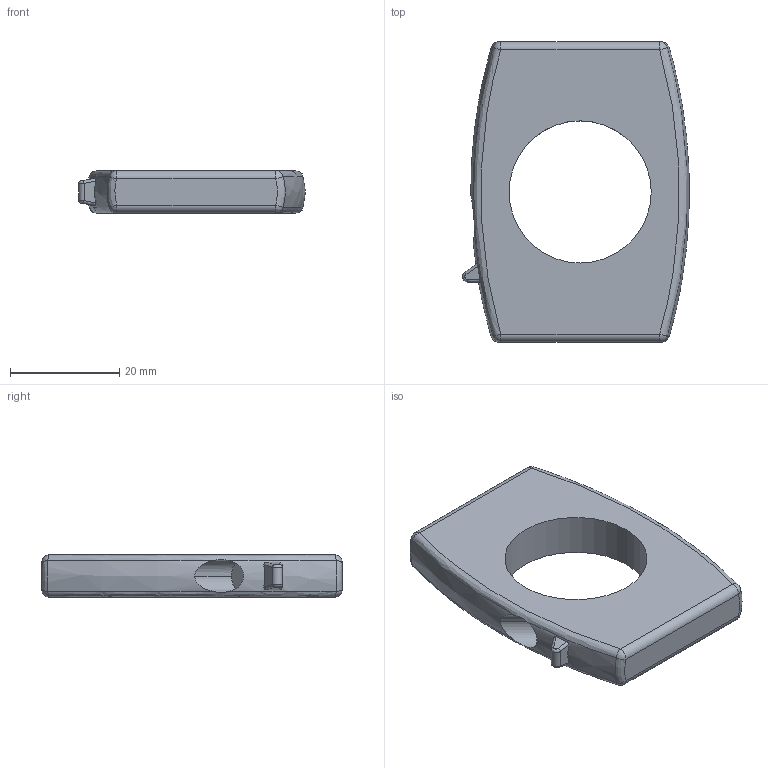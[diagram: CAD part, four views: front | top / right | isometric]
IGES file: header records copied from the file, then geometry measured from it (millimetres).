
Global section: file name: No Iges File Name specified; native system: Autodesk Inventor 2010; preprocessor: AutoDesk Inventor Iges Exporter R2010; author: valotma1; date: 20100823.143251; units: millimetre
Bounding box: 41.51 x 55 x 7.8 mm (x, y, z)
Volume: 11408.8 mm3; surface area: 4867.1 mm2
Topology: 1 solids, 1 shells, 43 faces, 100 edges, 52 vertices
Faces by surface type: bspline 19, sphere 8, plane 7, cylinder 5, revolution 4
